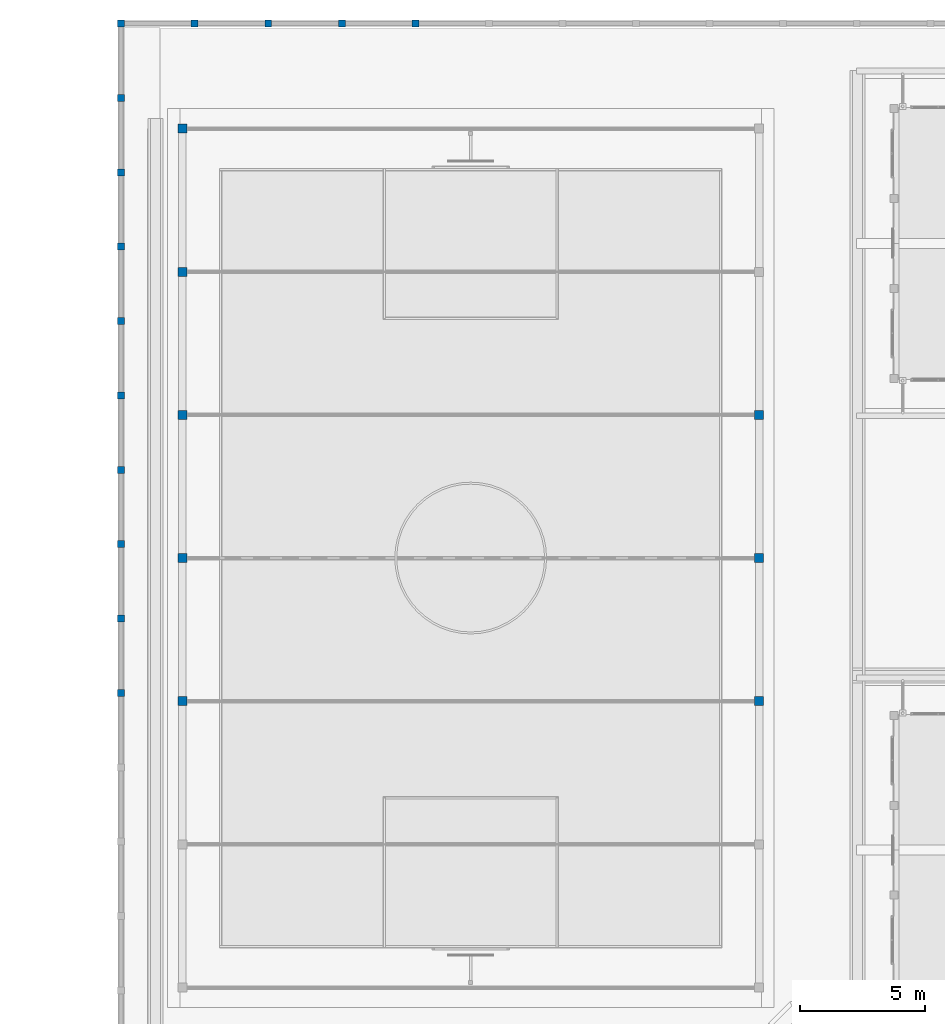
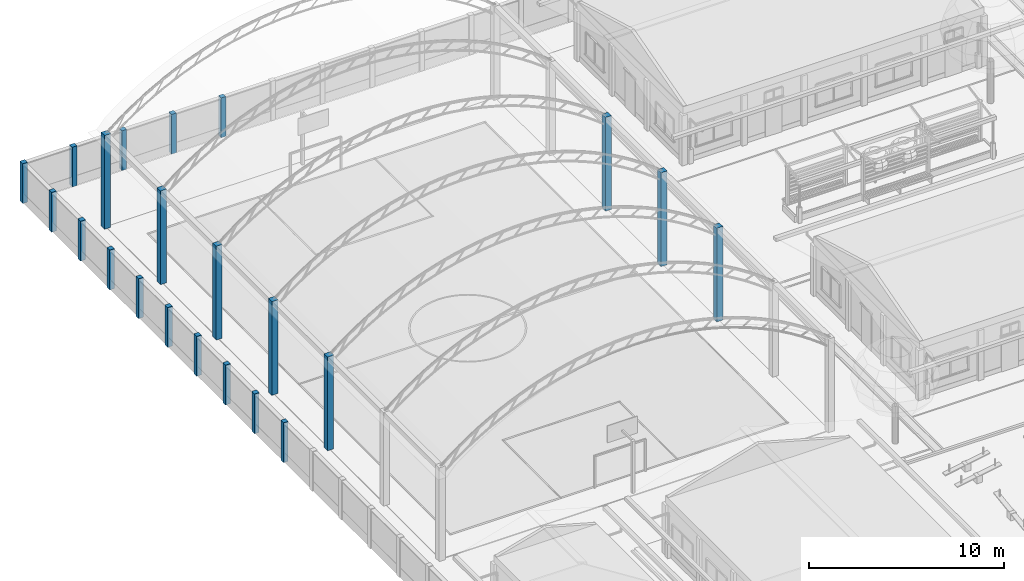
# One storey, part 9 of 177: 23 columns.
"""IFC4 building model written with IfcOpenShell, lengths in metres."""

from ifc_helpers import new_model, si_unit, origin, origin_with_axes, place, context, subcontext, project, spatial, triangles, element, save


model = new_model("IFC4")

# Units and contexts
model_context = context("Model", 3, precision=1e-05, world=origin_with_axes())
body_context = subcontext(model_context, "Body", "Model", "MODEL_VIEW")
ifc_project = project(units=[si_unit("LENGTHUNIT", "METRE"), si_unit("AREAUNIT", "SQUARE_METRE"), si_unit("VOLUMEUNIT", "CUBIC_METRE"), si_unit("PLANEANGLEUNIT", "RADIAN")], contexts=[model_context])

# Site, building, storey
site_placement = place(None, origin_with_axes())
site = spatial("IfcSite", under=ifc_project, at=site_placement, Name="Predio Los Mangos - Morales, San Martín", CompositionType="ELEMENT")
building_placement = place(site_placement, origin())
building = spatial("IfcBuilding", under=site, at=building_placement, Name="Hogar de Refugio Temporal", CompositionType="ELEMENT")
storey_placement = place(building_placement, origin())
storey = spatial("IfcBuildingStorey", under=building, at=storey_placement, Name="NIVEL 1 (NPT +0.00)", CompositionType="ELEMENT", Elevation=0.0)

# Columns
column_1_placement = place(storey_placement, origin())
element("IfcColumn", 1, at=column_1_placement, inside=storey, Name="columna_losa", ObjectType="Columna", PredefinedType="COLUMN", context=body_context, shape_type="Tessellation", body=[
    triangles([(3.32, 103.8867, 0.12), (3.68, 103.8867, 0.12), (3.68, 104.2467, 0.12), (3.32, 104.2467, 0.12), (3.32, 103.8867, 6.0), (3.68, 103.8867, 6.0), (3.68, 104.2467, 6.0), (3.32, 104.2467, 6.0)], [[1, 4, 3], [1, 3, 2], [5, 6, 7], [5, 7, 8], [1, 2, 6], [1, 6, 5], [2, 3, 7], [2, 7, 6], [3, 4, 8], [3, 8, 7], [4, 1, 5], [4, 5, 8]]),
])
column_2_placement = place(storey_placement, origin())
element("IfcColumn", 2, at=column_2_placement, inside=storey, Name="columna_losa", ObjectType="Columna", PredefinedType="COLUMN", context=body_context, shape_type="Tessellation", body=[
    triangles([(26.42, 103.8867, 0.12), (26.78, 103.8867, 0.12), (26.78, 104.2467, 0.12), (26.42, 104.2467, 0.12), (26.42, 103.8867, 6.0), (26.78, 103.8867, 6.0), (26.78, 104.2467, 6.0), (26.42, 104.2467, 6.0)], [[1, 4, 3], [1, 3, 2], [5, 6, 7], [5, 7, 8], [1, 2, 6], [1, 6, 5], [2, 3, 7], [2, 7, 6], [3, 4, 8], [3, 8, 7], [4, 1, 5], [4, 5, 8]]),
])
column_3_placement = place(storey_placement, origin())
element("IfcColumn", 3, at=column_3_placement, inside=storey, Name="columna_losa", ObjectType="Columna", PredefinedType="COLUMN", context=body_context, shape_type="Tessellation", body=[
    triangles([(3.32, 109.62, 0.12), (3.68, 109.62, 0.12), (3.68, 109.98, 0.12), (3.32, 109.98, 0.12), (3.32, 109.62, 6.0), (3.68, 109.62, 6.0), (3.68, 109.98, 6.0), (3.32, 109.98, 6.0)], [[1, 4, 3], [1, 3, 2], [5, 6, 7], [5, 7, 8], [1, 2, 6], [1, 6, 5], [2, 3, 7], [2, 7, 6], [3, 4, 8], [3, 8, 7], [4, 1, 5], [4, 5, 8]]),
])
column_4_placement = place(storey_placement, origin())
element("IfcColumn", 4, at=column_4_placement, inside=storey, Name="columna_losa", ObjectType="Columna", PredefinedType="COLUMN", context=body_context, shape_type="Tessellation", body=[
    triangles([(26.42, 109.62, 0.12), (26.78, 109.62, 0.12), (26.78, 109.98, 0.12), (26.42, 109.98, 0.12), (26.42, 109.62, 6.0), (26.78, 109.62, 6.0), (26.78, 109.98, 6.0), (26.42, 109.98, 6.0)], [[1, 4, 3], [1, 3, 2], [5, 6, 7], [5, 7, 8], [1, 2, 6], [1, 6, 5], [2, 3, 7], [2, 7, 6], [3, 4, 8], [3, 8, 7], [4, 1, 5], [4, 5, 8]]),
])
column_5_placement = place(storey_placement, origin())
element("IfcColumn", 5, at=column_5_placement, inside=storey, Name="columna_losa", ObjectType="Columna", PredefinedType="COLUMN", context=body_context, shape_type="Tessellation", body=[
    triangles([(3.32, 115.3533, 0.12), (3.68, 115.3533, 0.12), (3.68, 115.7133, 0.12), (3.32, 115.7133, 0.12), (3.32, 115.3533, 6.0), (3.68, 115.3533, 6.0), (3.68, 115.7133, 6.0), (3.32, 115.7133, 6.0)], [[1, 4, 3], [1, 3, 2], [5, 6, 7], [5, 7, 8], [1, 2, 6], [1, 6, 5], [2, 3, 7], [2, 7, 6], [3, 4, 8], [3, 8, 7], [4, 1, 5], [4, 5, 8]]),
])
column_6_placement = place(storey_placement, origin())
element("IfcColumn", 6, at=column_6_placement, inside=storey, Name="columna_losa", ObjectType="Columna", PredefinedType="COLUMN", context=body_context, shape_type="Tessellation", body=[
    triangles([(26.42, 115.3533, 0.12), (26.78, 115.3533, 0.12), (26.78, 115.7133, 0.12), (26.42, 115.7133, 0.12), (26.42, 115.3533, 6.0), (26.78, 115.3533, 6.0), (26.78, 115.7133, 6.0), (26.42, 115.7133, 6.0)], [[1, 4, 3], [1, 3, 2], [5, 6, 7], [5, 7, 8], [1, 2, 6], [1, 6, 5], [2, 3, 7], [2, 7, 6], [3, 4, 8], [3, 8, 7], [4, 1, 5], [4, 5, 8]]),
])
column_7_placement = place(storey_placement, origin())
element("IfcColumn", 7, at=column_7_placement, inside=storey, Name="columna_losa", ObjectType="Columna", PredefinedType="COLUMN", context=body_context, shape_type="Tessellation", body=[
    triangles([(3.32, 121.0867, 0.12), (3.68, 121.0867, 0.12), (3.68, 121.4467, 0.12), (3.32, 121.4467, 0.12), (3.32, 121.0867, 6.0), (3.68, 121.0867, 6.0), (3.68, 121.4467, 6.0), (3.32, 121.4467, 6.0)], [[1, 4, 3], [1, 3, 2], [5, 6, 7], [5, 7, 8], [1, 2, 6], [1, 6, 5], [2, 3, 7], [2, 7, 6], [3, 4, 8], [3, 8, 7], [4, 1, 5], [4, 5, 8]]),
])
column_8_placement = place(storey_placement, origin())
element("IfcColumn", 8, at=column_8_placement, inside=storey, Name="columna_losa", ObjectType="Columna", PredefinedType="COLUMN", context=body_context, shape_type="Tessellation", body=[
    triangles([(3.32, 126.82, 0.12), (3.68, 126.82, 0.12), (3.68, 127.18, 0.12), (3.32, 127.18, 0.12), (3.32, 126.82, 6.0), (3.68, 126.82, 6.0), (3.68, 127.18, 6.0), (3.32, 127.18, 6.0)], [[1, 4, 3], [1, 3, 2], [5, 6, 7], [5, 7, 8], [1, 2, 6], [1, 6, 5], [2, 3, 7], [2, 7, 6], [3, 4, 8], [3, 8, 7], [4, 1, 5], [4, 5, 8]]),
])
column_9_placement = place(storey_placement, origin())
element("IfcColumn", 9, at=column_9_placement, inside=storey, Name="columna_cerco", ObjectType="Columna", PredefinedType="COLUMN", context=body_context, shape_type="Tessellation", body=[
    triangles([(12.975, 131.35, 0.0), (12.695, 131.35, 0.0), (12.695, 131.07, 0.0), (12.975, 131.07, 0.0), (12.975, 131.35, 2.5), (12.695, 131.35, 2.5), (12.695, 131.07, 2.5), (12.975, 131.07, 2.5)], [[1, 4, 3], [1, 3, 2], [5, 6, 7], [5, 7, 8], [1, 2, 6], [1, 6, 5], [2, 3, 7], [2, 7, 6], [3, 4, 8], [3, 8, 7], [4, 1, 5], [4, 5, 8]]),
])
column_10_placement = place(storey_placement, origin())
element("IfcColumn", 10, at=column_10_placement, inside=storey, Name="columna_cerco", ObjectType="Columna", PredefinedType="COLUMN", context=body_context, shape_type="Tessellation", body=[
    triangles([(10.0288, 131.35, 0.0), (9.7487, 131.35, 0.0), (9.7487, 131.07, 0.0), (10.0288, 131.07, 0.0), (10.0288, 131.35, 2.5), (9.7487, 131.35, 2.5), (9.7487, 131.07, 2.5), (10.0288, 131.07, 2.5)], [[1, 4, 3], [1, 3, 2], [5, 6, 7], [5, 7, 8], [1, 2, 6], [1, 6, 5], [2, 3, 7], [2, 7, 6], [3, 4, 8], [3, 8, 7], [4, 1, 5], [4, 5, 8]]),
])
column_11_placement = place(storey_placement, origin())
element("IfcColumn", 11, at=column_11_placement, inside=storey, Name="columna_cerco", ObjectType="Columna", PredefinedType="COLUMN", context=body_context, shape_type="Tessellation", body=[
    triangles([(7.0825, 131.35, 0.0), (6.8025, 131.35, 0.0), (6.8025, 131.07, 0.0), (7.0825, 131.07, 0.0), (7.0825, 131.35, 2.5), (6.8025, 131.35, 2.5), (6.8025, 131.07, 2.5), (7.0825, 131.07, 2.5)], [[1, 4, 3], [1, 3, 2], [5, 6, 7], [5, 7, 8], [1, 2, 6], [1, 6, 5], [2, 3, 7], [2, 7, 6], [3, 4, 8], [3, 8, 7], [4, 1, 5], [4, 5, 8]]),
])
column_12_placement = place(storey_placement, origin())
element("IfcColumn", 12, at=column_12_placement, inside=storey, Name="columna_cerco", ObjectType="Columna", PredefinedType="COLUMN", context=body_context, shape_type="Tessellation", body=[
    triangles([(4.1363, 131.35, 0.0), (3.8562, 131.35, 0.0), (3.8562, 131.07, 0.0), (4.1363, 131.07, 0.0), (4.1363, 131.35, 2.5), (3.8562, 131.35, 2.5), (3.8562, 131.07, 2.5), (4.1363, 131.07, 2.5)], [[1, 4, 3], [1, 3, 2], [5, 6, 7], [5, 7, 8], [1, 2, 6], [1, 6, 5], [2, 3, 7], [2, 7, 6], [3, 4, 8], [3, 8, 7], [4, 1, 5], [4, 5, 8]]),
])
column_13_placement = place(storey_placement, origin())
element("IfcColumn", 13, at=column_13_placement, inside=storey, Name="columna_cerco", ObjectType="Columna", PredefinedType="COLUMN", context=body_context, shape_type="Tessellation", body=[
    triangles([(1.19, 131.35, 0.0), (0.91, 131.35, 0.0), (0.91, 131.07, 0.0), (1.19, 131.07, 0.0), (1.19, 131.35, 2.5), (0.91, 131.35, 2.5), (0.91, 131.07, 2.5), (1.19, 131.07, 2.5)], [[1, 4, 3], [1, 3, 2], [5, 6, 7], [5, 7, 8], [1, 2, 6], [1, 6, 5], [2, 3, 7], [2, 7, 6], [3, 4, 8], [3, 8, 7], [4, 1, 5], [4, 5, 8]]),
])
column_14_placement = place(storey_placement, origin())
element("IfcColumn", 14, at=column_14_placement, inside=storey, Name="columna_cerco", ObjectType="Columna", PredefinedType="COLUMN", context=body_context, shape_type="Tessellation", body=[
    triangles([(0.91, 131.35, 0.0), (0.91, 131.07, 0.0), (1.19, 131.07, 0.0), (1.19, 131.35, 0.0), (0.91, 131.35, 2.5), (0.91, 131.07, 2.5), (1.19, 131.07, 2.5), (1.19, 131.35, 2.5)], [[1, 4, 3], [1, 3, 2], [5, 6, 7], [5, 7, 8], [1, 2, 6], [1, 6, 5], [2, 3, 7], [2, 7, 6], [3, 4, 8], [3, 8, 7], [4, 1, 5], [4, 5, 8]]),
])
column_15_placement = place(storey_placement, origin())
element("IfcColumn", 15, at=column_15_placement, inside=storey, Name="columna_cerco", ObjectType="Columna", PredefinedType="COLUMN", context=body_context, shape_type="Tessellation", body=[
    triangles([(0.91, 128.3708, 0.0), (0.91, 128.0908, 0.0), (1.19, 128.0908, 0.0), (1.19, 128.3708, 0.0), (0.91, 128.3708, 2.5), (0.91, 128.0908, 2.5), (1.19, 128.0908, 2.5), (1.19, 128.3708, 2.5)], [[1, 4, 3], [1, 3, 2], [5, 6, 7], [5, 7, 8], [1, 2, 6], [1, 6, 5], [2, 3, 7], [2, 7, 6], [3, 4, 8], [3, 8, 7], [4, 1, 5], [4, 5, 8]]),
])
column_16_placement = place(storey_placement, origin())
element("IfcColumn", 16, at=column_16_placement, inside=storey, Name="columna_cerco", ObjectType="Columna", PredefinedType="COLUMN", context=body_context, shape_type="Tessellation", body=[
    triangles([(0.91, 125.3916, 0.0), (0.91, 125.1116, 0.0), (1.19, 125.1116, 0.0), (1.19, 125.3916, 0.0), (0.91, 125.3916, 2.5), (0.91, 125.1116, 2.5), (1.19, 125.1116, 2.5), (1.19, 125.3916, 2.5)], [[1, 4, 3], [1, 3, 2], [5, 6, 7], [5, 7, 8], [1, 2, 6], [1, 6, 5], [2, 3, 7], [2, 7, 6], [3, 4, 8], [3, 8, 7], [4, 1, 5], [4, 5, 8]]),
])
column_17_placement = place(storey_placement, origin())
element("IfcColumn", 17, at=column_17_placement, inside=storey, Name="columna_cerco", ObjectType="Columna", PredefinedType="COLUMN", context=body_context, shape_type="Tessellation", body=[
    triangles([(0.91, 122.4124, 0.0), (0.91, 122.1324, 0.0), (1.19, 122.1324, 0.0), (1.19, 122.4124, 0.0), (0.91, 122.4124, 2.5), (0.91, 122.1324, 2.5), (1.19, 122.1324, 2.5), (1.19, 122.4124, 2.5)], [[1, 4, 3], [1, 3, 2], [5, 6, 7], [5, 7, 8], [1, 2, 6], [1, 6, 5], [2, 3, 7], [2, 7, 6], [3, 4, 8], [3, 8, 7], [4, 1, 5], [4, 5, 8]]),
])
column_18_placement = place(storey_placement, origin())
element("IfcColumn", 18, at=column_18_placement, inside=storey, Name="columna_cerco", ObjectType="Columna", PredefinedType="COLUMN", context=body_context, shape_type="Tessellation", body=[
    triangles([(0.91, 119.4332, 0.0), (0.91, 119.1532, 0.0), (1.19, 119.1532, 0.0), (1.19, 119.4332, 0.0), (0.91, 119.4332, 2.5), (0.91, 119.1532, 2.5), (1.19, 119.1532, 2.5), (1.19, 119.4332, 2.5)], [[1, 4, 3], [1, 3, 2], [5, 6, 7], [5, 7, 8], [1, 2, 6], [1, 6, 5], [2, 3, 7], [2, 7, 6], [3, 4, 8], [3, 8, 7], [4, 1, 5], [4, 5, 8]]),
])
column_19_placement = place(storey_placement, origin())
element("IfcColumn", 19, at=column_19_placement, inside=storey, Name="columna_cerco", ObjectType="Columna", PredefinedType="COLUMN", context=body_context, shape_type="Tessellation", body=[
    triangles([(0.91, 116.4539, 0.0), (0.91, 116.174, 0.0), (1.19, 116.174, 0.0), (1.19, 116.4539, 0.0), (0.91, 116.4539, 2.5), (0.91, 116.174, 2.5), (1.19, 116.174, 2.5), (1.19, 116.4539, 2.5)], [[1, 4, 3], [1, 3, 2], [5, 6, 7], [5, 7, 8], [1, 2, 6], [1, 6, 5], [2, 3, 7], [2, 7, 6], [3, 4, 8], [3, 8, 7], [4, 1, 5], [4, 5, 8]]),
])
column_20_placement = place(storey_placement, origin())
element("IfcColumn", 20, at=column_20_placement, inside=storey, Name="columna_cerco", ObjectType="Columna", PredefinedType="COLUMN", context=body_context, shape_type="Tessellation", body=[
    triangles([(0.91, 113.4747, 0.0), (0.91, 113.1947, 0.0), (1.19, 113.1947, 0.0), (1.19, 113.4747, 0.0), (0.91, 113.4747, 2.5), (0.91, 113.1947, 2.5), (1.19, 113.1947, 2.5), (1.19, 113.4747, 2.5)], [[1, 4, 3], [1, 3, 2], [5, 6, 7], [5, 7, 8], [1, 2, 6], [1, 6, 5], [2, 3, 7], [2, 7, 6], [3, 4, 8], [3, 8, 7], [4, 1, 5], [4, 5, 8]]),
])
column_21_placement = place(storey_placement, origin())
element("IfcColumn", 21, at=column_21_placement, inside=storey, Name="columna_cerco", ObjectType="Columna", PredefinedType="COLUMN", context=body_context, shape_type="Tessellation", body=[
    triangles([(0.91, 110.4955, 0.0), (0.91, 110.2155, 0.0), (1.19, 110.2155, 0.0), (1.19, 110.4955, 0.0), (0.91, 110.4955, 2.5), (0.91, 110.2155, 2.5), (1.19, 110.2155, 2.5), (1.19, 110.4955, 2.5)], [[1, 4, 3], [1, 3, 2], [5, 6, 7], [5, 7, 8], [1, 2, 6], [1, 6, 5], [2, 3, 7], [2, 7, 6], [3, 4, 8], [3, 8, 7], [4, 1, 5], [4, 5, 8]]),
])
column_22_placement = place(storey_placement, origin())
element("IfcColumn", 22, at=column_22_placement, inside=storey, Name="columna_cerco", ObjectType="Columna", PredefinedType="COLUMN", context=body_context, shape_type="Tessellation", body=[
    triangles([(0.91, 107.5163, 0.0), (0.91, 107.2363, 0.0), (1.19, 107.2363, 0.0), (1.19, 107.5163, 0.0), (0.91, 107.5163, 2.5), (0.91, 107.2363, 2.5), (1.19, 107.2363, 2.5), (1.19, 107.5163, 2.5)], [[1, 4, 3], [1, 3, 2], [5, 6, 7], [5, 7, 8], [1, 2, 6], [1, 6, 5], [2, 3, 7], [2, 7, 6], [3, 4, 8], [3, 8, 7], [4, 1, 5], [4, 5, 8]]),
])
column_23_placement = place(storey_placement, origin())
element("IfcColumn", 23, at=column_23_placement, inside=storey, Name="columna_cerco", ObjectType="Columna", PredefinedType="COLUMN", context=body_context, shape_type="Tessellation", body=[
    triangles([(0.91, 104.5371, 0.0), (0.91, 104.2571, 0.0), (1.19, 104.2571, 0.0), (1.19, 104.5371, 0.0), (0.91, 104.5371, 2.5), (0.91, 104.2571, 2.5), (1.19, 104.2571, 2.5), (1.19, 104.5371, 2.5)], [[1, 4, 3], [1, 3, 2], [5, 6, 7], [5, 7, 8], [1, 2, 6], [1, 6, 5], [2, 3, 7], [2, 7, 6], [3, 4, 8], [3, 8, 7], [4, 1, 5], [4, 5, 8]]),
])

save(model, "model.ifc")
